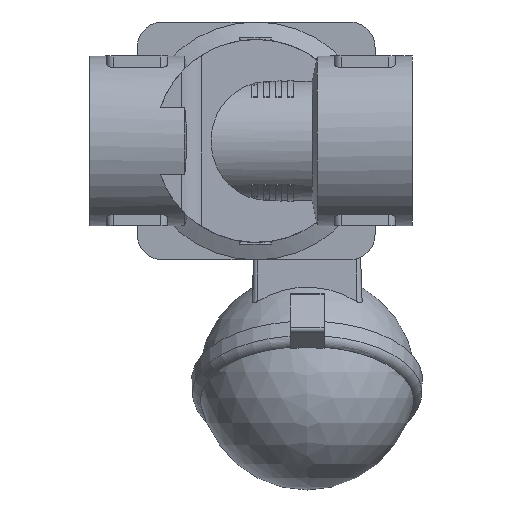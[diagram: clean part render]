
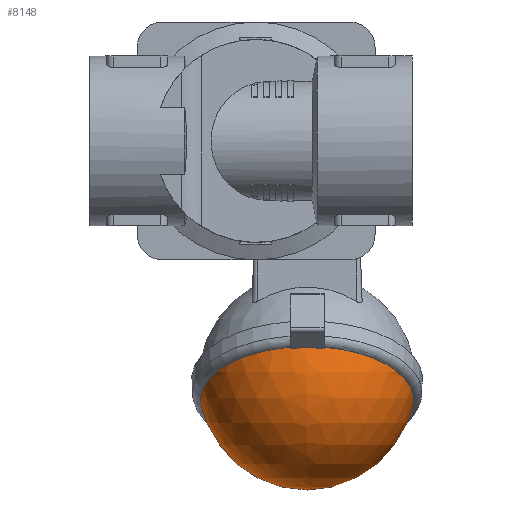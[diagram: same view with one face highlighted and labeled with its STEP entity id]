
A CAD part, front view. The second image highlights one B-rep face of the part: STEP entity #8148.
In plain terms, the highlighted spherical face has radius 32 mm.
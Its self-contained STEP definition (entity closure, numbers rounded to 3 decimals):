
#20=SPHERICAL_SURFACE('',#8779,32.);
#2683=ORIENTED_EDGE('',*,*,#4001,.F.);
#2684=ORIENTED_EDGE('',*,*,#4002,.T.);
#2685=ORIENTED_EDGE('',*,*,#4003,.T.);
#2686=ORIENTED_EDGE('',*,*,#4004,.F.);
#2687=ORIENTED_EDGE('',*,*,#4005,.F.);
#2688=ORIENTED_EDGE('',*,*,#4006,.F.);
#2689=ORIENTED_EDGE('',*,*,#4007,.T.);
#2690=ORIENTED_EDGE('',*,*,#4008,.T.);
#4001=EDGE_CURVE('',#4758,#4759,#5141,.F.);
#4002=EDGE_CURVE('',#4758,#4760,#5142,.F.);
#4003=EDGE_CURVE('',#4760,#4761,#5143,.F.);
#4004=EDGE_CURVE('',#4762,#4761,#5144,.F.);
#4005=EDGE_CURVE('',#4763,#4762,#5145,.F.);
#4006=EDGE_CURVE('',#4764,#4763,#5146,.F.);
#4007=EDGE_CURVE('',#4764,#4765,#5147,.F.);
#4008=EDGE_CURVE('',#4765,#4759,#5148,.F.);
#4758=VERTEX_POINT('',#12696);
#4759=VERTEX_POINT('',#12697);
#4760=VERTEX_POINT('',#12699);
#4761=VERTEX_POINT('',#12701);
#4762=VERTEX_POINT('',#12703);
#4763=VERTEX_POINT('',#12705);
#4764=VERTEX_POINT('',#12707);
#4765=VERTEX_POINT('',#12709);
#5141=CIRCLE('',#8780,31.368);
#5142=CIRCLE('',#8781,31.607);
#5143=CIRCLE('',#8782,31.291);
#5144=CIRCLE('',#8783,31.607);
#5145=CIRCLE('',#8784,31.368);
#5146=CIRCLE('',#8785,30.708);
#5147=CIRCLE('',#8786,30.984);
#5148=CIRCLE('',#8787,30.708);
#5532=EDGE_LOOP('',(#2683,#2684,#2685,#2686,#2687,#2688,#2689,#2690));
#5974=FACE_BOUND('',#5532,.T.);
#8148=ADVANCED_FACE('',(#5974),#20,.T.);
#8779=AXIS2_PLACEMENT_3D('',#12694,#10361,#10362);
#8780=AXIS2_PLACEMENT_3D('',#12695,#10363,#10364);
#8781=AXIS2_PLACEMENT_3D('',#12698,#10365,#10366);
#8782=AXIS2_PLACEMENT_3D('',#12700,#10367,#10368);
#8783=AXIS2_PLACEMENT_3D('',#12702,#10369,#10370);
#8784=AXIS2_PLACEMENT_3D('',#12704,#10371,#10372);
#8785=AXIS2_PLACEMENT_3D('',#12706,#10373,#10374);
#8786=AXIS2_PLACEMENT_3D('',#12708,#10375,#10376);
#8787=AXIS2_PLACEMENT_3D('',#12710,#10377,#10378);
#10361=DIRECTION('',(1.,0.,0.));
#10362=DIRECTION('',(0.,-1.,0.));
#10363=DIRECTION('',(-0.866,-0.5,0.));
#10364=DIRECTION('',(0.5,-0.866,0.));
#10365=DIRECTION('',(0.,0.,1.));
#10366=DIRECTION('',(1.,0.,0.));
#10367=DIRECTION('',(0.866,0.5,0.));
#10368=DIRECTION('',(-0.5,0.866,0.));
#10369=DIRECTION('',(0.,0.,1.));
#10370=DIRECTION('',(1.,0.,0.));
#10371=DIRECTION('',(-0.866,-0.5,0.));
#10372=DIRECTION('',(0.5,-0.866,0.));
#10373=DIRECTION('',(0.,0.,1.));
#10374=DIRECTION('',(1.,0.,0.));
#10375=DIRECTION('',(0.866,0.5,0.));
#10376=DIRECTION('',(-0.5,0.866,0.));
#10377=DIRECTION('',(0.,0.,1.));
#10378=DIRECTION('',(1.,0.,0.));
#12694=CARTESIAN_POINT('',(-70.7,0.,0.));
#12695=CARTESIAN_POINT('',(-76.183,-3.165,0.));
#12696=CARTESIAN_POINT('',(-60.699,-29.983,-5.));
#12697=CARTESIAN_POINT('',(-91.207,22.858,-9.));
#12698=CARTESIAN_POINT('',(-70.7,0.,-5.));
#12699=CARTESIAN_POINT('',(-61.058,-30.1,-5.));
#12700=CARTESIAN_POINT('',(-76.502,-3.35,0.));
#12701=CARTESIAN_POINT('',(-61.058,-30.1,5.));
#12702=CARTESIAN_POINT('',(-70.7,0.,5.));
#12703=CARTESIAN_POINT('',(-60.699,-29.983,5.));
#12704=CARTESIAN_POINT('',(-76.183,-3.165,0.));
#12705=CARTESIAN_POINT('',(-91.207,22.858,9.));
#12706=CARTESIAN_POINT('',(-70.7,0.,9.));
#12707=CARTESIAN_POINT('',(-92.452,21.676,9.));
#12708=CARTESIAN_POINT('',(-77.628,-4.,0.));
#12709=CARTESIAN_POINT('',(-92.452,21.676,-9.));
#12710=CARTESIAN_POINT('',(-70.7,0.,-9.));
